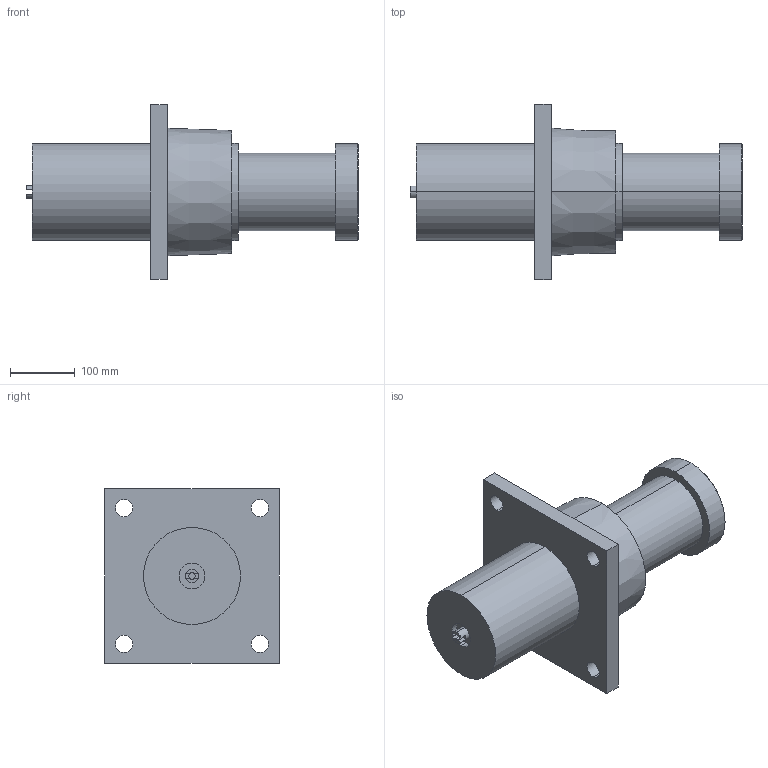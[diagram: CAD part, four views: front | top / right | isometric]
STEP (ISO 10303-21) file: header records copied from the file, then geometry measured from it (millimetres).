
FILE_DESCRIPTION (( 'STEP AP214' ), '1' );
FILE_NAME ('LDH150X115FF.STEP', '2019-01-21T05:02:50', ( 'user' ), ( 'Microsoft' ), 'SwSTEP 2.0', 'SolidWorks 2016', '' );
FILE_SCHEMA (( 'AUTOMOTIVE_DESIGN' ));
Length unit declared in the file: millimetre
Products named in the file (1): LDH150X115FF
Bounding box: 513 x 270 x 270 mm (x, y, z)
Volume: 10416211 mm3; surface area: 414965.5 mm2
Topology: 1 solids, 5 shells, 63 faces, 136 edges, 90 vertices
Faces by surface type: cylinder 30, plane 29, cone 4
Entity records: 1790 total; most frequent: DIRECTION 338, CARTESIAN_POINT 290, ORIENTED_EDGE 272, AXIS2_PLACEMENT_3D 138, EDGE_CURVE 136, VERTEX_POINT 90, EDGE_LOOP 78, CIRCLE 74
